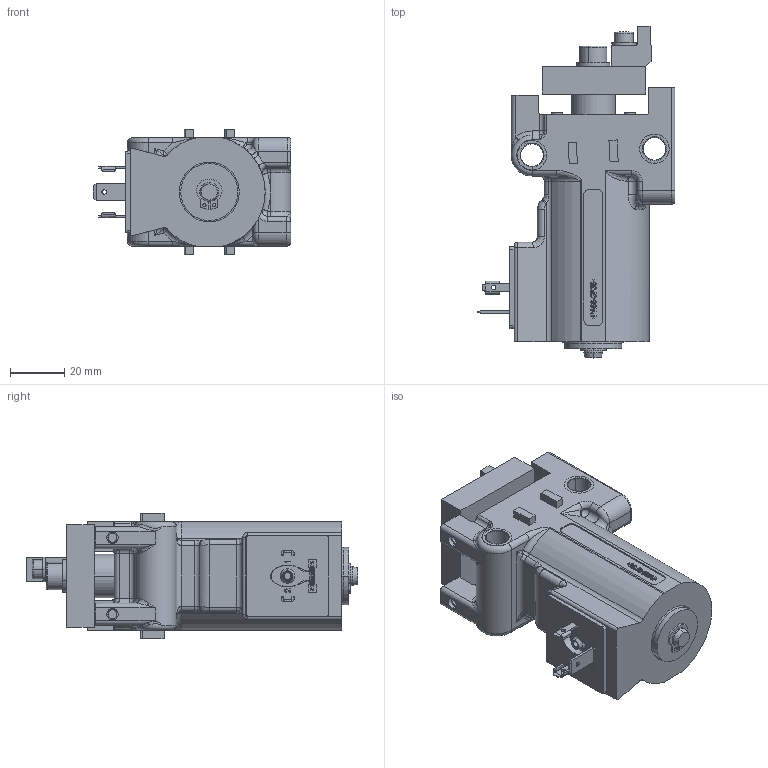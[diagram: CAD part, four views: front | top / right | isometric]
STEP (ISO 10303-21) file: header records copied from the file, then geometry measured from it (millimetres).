
FILE_DESCRIPTION((''),'2;1');
FILE_NAME('VEREINZELER_TS1_ASM','2023-03-30T13:29:57',('j.happel'),(''),'CREO PARAMETRIC BY PTC INC, 2020044','CREO PARAMETRIC BY PTC INC, 2020044','');
FILE_SCHEMA(('AUTOMOTIVE_DESIGN { 1 0 10303 214 1 1 1 1 }'));
Products named in the file (59): 100000073200_Z03_000_1_1_AF0; 100000073200_Z03_000_1_2_AF0; 100000073200_Z03_000_1_3_AF0; 100000073200_Z03_000_1_4; 100000073200_Z03_000_1_5; 100000073200_Z03_000_1_6; 100000073200_Z03_000_1_7; 100000073200_Z03_000_1_8; 100000073200_Z03_000_1_9_AF0; 100000073200_Z03_000_1_10_AF0; 100000073200_Z03_000_1_11_AF0; 100000073200_Z03_000_1_AF0_ASM; 100000060237_Z03_000_1_AF0; 100000060260_Z03_000_1_1_AF0; 100000060260_Z03_000_1_2_AF0; 100000060260_Z03_000_1_3_AF0; 100000060260_Z03_000_1_AF0_ASM; 100000060315_Z03_000_ASM_1_AF0_ASM; 100000066740_Z03_000_1_1_AF0; 100000066740_Z03_000_1_2_AF0; 100000066740_Z03_000_1_AF0_ASM; 100000060316_Z03_000_ASM_1_AF0_ASM; 100000060378_Z03_000_1_AF0; 100000058728_Z03_000_1_AF0; 100000070295_Z03_000_ASM_1_AF0_ASM; 100000060903_Z03_000_1_AF0; 100000060488_Z03_000_1; 100000060956_Z03_000_1; 100000060957_Z03_000_ASM_1_AF0_ASM; 100000060889_Z03_000_1_AF0; 100000058728_Z03_000_1_AF1; 100000070293_Z03_000_ASM_1_AF0_ASM; 100000070294_Z03_000_ASM_1_AF0_ASM; 100000036703_Z03_000_1_AF0; 100000036703_Z03_000_1_AF1; 100000068769_Z03_000_1_AF0; 100000073201_Z03_000_ASM_1_AF0_ASM; 100000072605_Z03_000_1_AF0; 100000072604_Z03_000_1_AF0; 100000069715_Z03_000_1_AF0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
Assembly tree (59 placements, depth 10):
  VEREINZELER_TS1_ASM
    100000073367_Z03_000_ASM_1_AF0_ASM
      100000073201_Z03_000_ASM_1_AF0_ASM
        100000073200_Z03_000_1_AF0_ASM
          100000073200_Z03_000_1_1_AF0
          100000073200_Z03_000_1_2_AF0
          100000073200_Z03_000_1_3_AF0
          100000073200_Z03_000_1_4
          100000073200_Z03_000_1_5
          100000073200_Z03_000_1_6
          100000073200_Z03_000_1_7
          100000073200_Z03_000_1_8
          100000073200_Z03_000_1_9_AF0
          100000073200_Z03_000_1_10_AF0
          100000073200_Z03_000_1_11_AF0
        100000070294_Z03_000_ASM_1_AF0_ASM
          100000070293_Z03_000_ASM_1_AF0_ASM
            100000070295_Z03_000_ASM_1_AF0_ASM
              100000060316_Z03_000_ASM_1_AF0_ASM
                100000060315_Z03_000_ASM_1_AF0_ASM
                  100000060237_Z03_000_1_AF0
                  100000060260_Z03_000_1_AF0_ASM
                100000066740_Z03_000_1_AF0_ASM
                  100000066740_Z03_000_1_1_AF0
                  100000066740_Z03_000_1_2_AF0
              100000060378_Z03_000_1_AF0
              100000058728_Z03_000_1_AF0
            100000060957_Z03_000_ASM_1_AF0_ASM
              100000060903_Z03_000_1_AF0
              100000060488_Z03_000_1
              100000060956_Z03_000_1
            100000060889_Z03_000_1_AF0
            100000058728_Z03_000_1_AF1
        100000036703_Z03_000_1_AF0
        100000036703_Z03_000_1_AF1
        100000068769_Z03_000_1_AF0
      100000072605_Z03_000_1_AF0
      100000072604_Z03_000_1_AF0
      100000069715_Z03_000_1_AF0
      100000069715_Z03_000_1_AF1
      100000069715_Z03_000_1_AF2
      100000069715_Z03_000_1_AF3
      100000073365_Z03_000_ASM_1_AF0_ASM
        100000068902_Z03_000_1_AF0
        100000073357_Z03_000_1
        100000072549_Z03_000_1
        100000069503_Z03_000_1
        100000073363_Z03_000_ASM_1_ASM
          100000073359_Z03_000_1
          100000073362_Z03_000_1  x2
        100000073361_Z03_000_1
        100000073360_Z03_000_1
      100000072614_Z03_000_1
      100000068752_Z03_000_1
      100000068754_Z03_000_1_AF0
      100000075382_Z03_000_1_AF0
Bounding box: 72.5 x 121.9 x 46 mm (x, y, z)
Volume: 77782.6 mm3; surface area: 58924 mm2
Topology: 36 solids, 36 shells, 3506 faces, 9701 edges, 6339 vertices
Faces by surface type: plane 2462, cylinder 592, bspline 230, torus 89, cone 76, sphere 51, extrusion 6
Entity records: 155823 total; most frequent: CARTESIAN_POINT 38431, ORIENTED_EDGE 19256, DIRECTION 17066, EDGE_CURVE 9628, VECTOR 7450, LINE 7444, PRESENTATION_STYLE_ASSIGNMENT 7257, STYLED_ITEM 7189
